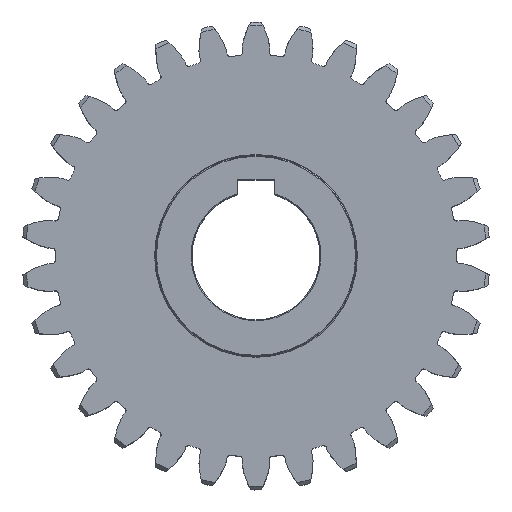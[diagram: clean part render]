
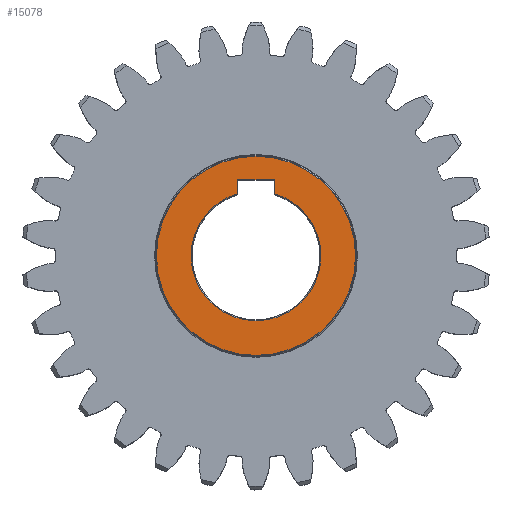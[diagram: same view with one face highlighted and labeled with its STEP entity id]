
A CAD part, top view. The second image highlights one B-rep face of the part: STEP entity #15078.
In plain terms, the highlighted planar face has unit normal (0, 0, 1).
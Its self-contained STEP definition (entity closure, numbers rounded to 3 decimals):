
#29 = EDGE_CURVE ( 'NONE', #14167, #14017, #3669, .T. ) ;
#522 = EDGE_LOOP ( 'NONE', ( #1248, #12747 ) ) ;
#569 = AXIS2_PLACEMENT_3D ( 'NONE', #1524, #5809, #19488 ) ;
#578 = DIRECTION ( 'NONE',  ( 1., 0., 0. ) ) ;
#735 = DIRECTION ( 'NONE',  ( 1., 0., 0. ) ) ;
#851 = DIRECTION ( 'NONE',  ( 0., -1., 0. ) ) ;
#1046 = LINE ( 'NONE', #14512, #15237 ) ;
#1105 = EDGE_LOOP ( 'NONE', ( #5037, #14822, #9118, #11380, #17490, #14717 ) ) ;
#1170 = VERTEX_POINT ( 'NONE', #15324 ) ;
#1248 = ORIENTED_EDGE ( 'NONE', *, *, #6335, .T. ) ;
#1285 = CARTESIAN_POINT ( 'NONE',  ( 17.75, 0., 25. ) ) ;
#1524 = CARTESIAN_POINT ( 'NONE',  ( 0., 0., 25. ) ) ;
#1622 = AXIS2_PLACEMENT_3D ( 'NONE', #4132, #16100, #8314 ) ;
#1882 = PLANE ( 'NONE',  #2901 ) ;
#2314 = CARTESIAN_POINT ( 'NONE',  ( 0., 0., 25. ) ) ;
#2784 = CARTESIAN_POINT ( 'NONE',  ( 0., 0., 25. ) ) ;
#2901 = AXIS2_PLACEMENT_3D ( 'NONE', #5073, #9440, #578 ) ;
#3165 = DIRECTION ( 'NONE',  ( 1., 0., 0. ) ) ;
#3295 = VECTOR ( 'NONE', #6658, 1000. ) ;
#3651 = EDGE_CURVE ( 'NONE', #12505, #7719, #6072, .T. ) ;
#3669 = LINE ( 'NONE', #5271, #3295 ) ;
#3817 = DIRECTION ( 'NONE',  ( 1., 0., 0. ) ) ;
#3893 = EDGE_CURVE ( 'NONE', #7719, #14167, #5783, .T. ) ;
#4132 = CARTESIAN_POINT ( 'NONE',  ( 0., 0., 25. ) ) ;
#4286 = AXIS2_PLACEMENT_3D ( 'NONE', #8293, #6521, #3817 ) ;
#4612 = CIRCLE ( 'NONE', #4286, 27.25 ) ;
#5037 = ORIENTED_EDGE ( 'NONE', *, *, #10935, .T. ) ;
#5073 = CARTESIAN_POINT ( 'NONE',  ( 0., 0., 25. ) ) ;
#5238 = EDGE_CURVE ( 'NONE', #12597, #12505, #17123, .T. ) ;
#5271 = CARTESIAN_POINT ( 'NONE',  ( -5., 14.2, 25. ) ) ;
#5325 = DIRECTION ( 'NONE',  ( 0., 0., -1. ) ) ;
#5783 = CIRCLE ( 'NONE', #17249, 17.75 ) ;
#5809 = DIRECTION ( 'NONE',  ( 0., 0., -1. ) ) ;
#5965 = CARTESIAN_POINT ( 'NONE',  ( -5., 17.031, 25. ) ) ;
#6072 = CIRCLE ( 'NONE', #1622, 17.75 ) ;
#6335 = EDGE_CURVE ( 'NONE', #11399, #14678, #4612, .T. ) ;
#6521 = DIRECTION ( 'NONE',  ( 0., 0., 1. ) ) ;
#6658 = DIRECTION ( 'NONE',  ( 0., 1., 0. ) ) ;
#6659 = FACE_OUTER_BOUND ( 'NONE', #522, .T. ) ;
#6682 = CARTESIAN_POINT ( 'NONE',  ( -5., 20.8, 25. ) ) ;
#7719 = VERTEX_POINT ( 'NONE', #17536 ) ;
#8293 = CARTESIAN_POINT ( 'NONE',  ( 0., 0., 25. ) ) ;
#8314 = DIRECTION ( 'NONE',  ( 1., 0., 0. ) ) ;
#8383 = EDGE_CURVE ( 'NONE', #14017, #1170, #10730, .T. ) ;
#8575 = VECTOR ( 'NONE', #3165, 1000. ) ;
#9118 = ORIENTED_EDGE ( 'NONE', *, *, #3651, .T. ) ;
#9440 = DIRECTION ( 'NONE',  ( 0., 0., 1. ) ) ;
#9988 = EDGE_CURVE ( 'NONE', #14678, #11399, #18121, .T. ) ;
#10102 = AXIS2_PLACEMENT_3D ( 'NONE', #2314, #19172, #18890 ) ;
#10730 = LINE ( 'NONE', #16832, #8575 ) ;
#10935 = EDGE_CURVE ( 'NONE', #1170, #12597, #1046, .T. ) ;
#11380 = ORIENTED_EDGE ( 'NONE', *, *, #3893, .T. ) ;
#11399 = VERTEX_POINT ( 'NONE', #14960 ) ;
#12505 = VERTEX_POINT ( 'NONE', #1285 ) ;
#12597 = VERTEX_POINT ( 'NONE', #13346 ) ;
#12747 = ORIENTED_EDGE ( 'NONE', *, *, #9988, .T. ) ;
#13346 = CARTESIAN_POINT ( 'NONE',  ( 5., 17.031, 25. ) ) ;
#14017 = VERTEX_POINT ( 'NONE', #6682 ) ;
#14167 = VERTEX_POINT ( 'NONE', #5965 ) ;
#14512 = CARTESIAN_POINT ( 'NONE',  ( 5., 14.2, 25. ) ) ;
#14678 = VERTEX_POINT ( 'NONE', #17063 ) ;
#14717 = ORIENTED_EDGE ( 'NONE', *, *, #8383, .T. ) ;
#14822 = ORIENTED_EDGE ( 'NONE', *, *, #5238, .T. ) ;
#14960 = CARTESIAN_POINT ( 'NONE',  ( -27.25, 0., 25. ) ) ;
#15078 = ADVANCED_FACE ( 'NONE', ( #6659, #17423 ), #1882, .T. ) ;
#15237 = VECTOR ( 'NONE', #851, 1000. ) ;
#15324 = CARTESIAN_POINT ( 'NONE',  ( 5., 20.8, 25. ) ) ;
#16100 = DIRECTION ( 'NONE',  ( 0., 0., -1. ) ) ;
#16832 = CARTESIAN_POINT ( 'NONE',  ( 5., 20.8, 25. ) ) ;
#17063 = CARTESIAN_POINT ( 'NONE',  ( 27.25, 0., 25. ) ) ;
#17123 = CIRCLE ( 'NONE', #569, 17.75 ) ;
#17249 = AXIS2_PLACEMENT_3D ( 'NONE', #2784, #5325, #735 ) ;
#17423 = FACE_BOUND ( 'NONE', #1105, .T. ) ;
#17490 = ORIENTED_EDGE ( 'NONE', *, *, #29, .T. ) ;
#17536 = CARTESIAN_POINT ( 'NONE',  ( -17.75, 0., 25. ) ) ;
#18121 = CIRCLE ( 'NONE', #10102, 27.25 ) ;
#18890 = DIRECTION ( 'NONE',  ( 1., 0., 0. ) ) ;
#19172 = DIRECTION ( 'NONE',  ( 0., 0., 1. ) ) ;
#19488 = DIRECTION ( 'NONE',  ( 1., 0., 0. ) ) ;
